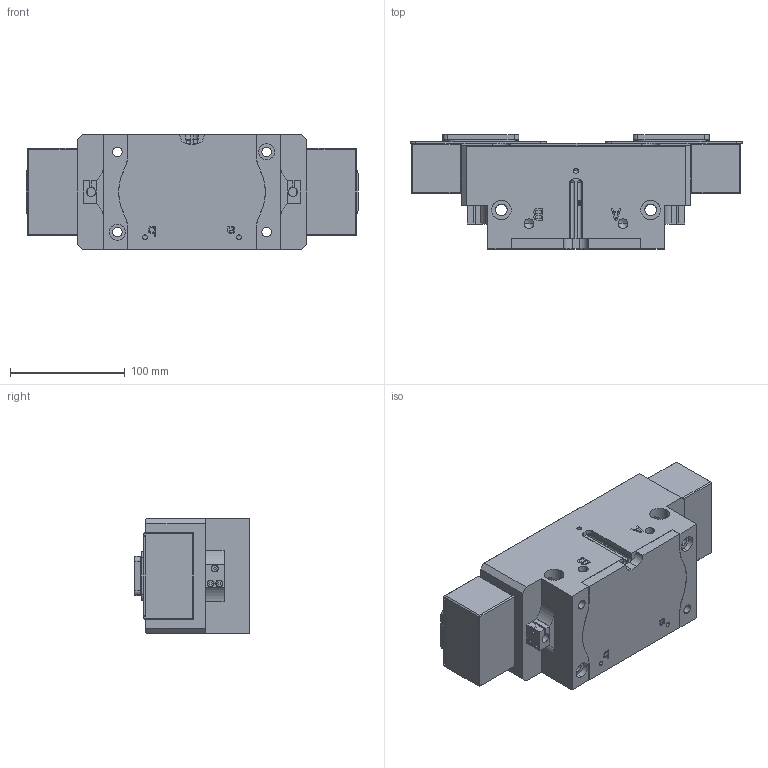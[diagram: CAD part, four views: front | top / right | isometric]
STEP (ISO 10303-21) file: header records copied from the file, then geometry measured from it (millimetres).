
FILE_DESCRIPTION (( 'STEP AP214' ), '1' );
FILE_NAME ('FPT 200A-1-SD.STEP', '2021-09-18T07:48:32', ( 'DEEP' ), ( 'Microsoft' ), 'SwSTEP 2.0', 'SolidWorks 2016', '' );
FILE_SCHEMA (( 'AUTOMOTIVE_DESIGN' ));
Length unit declared in the file: millimetre
Products named in the file (25): FPT 200A-1-004; FPT 200A-1-006; FPT 200A-1-001; FPT 200A-1-002; FPT 200A-1-003; FPT 200A-1-SD; FPT200A-11-sd; FPT 200A-1-SD-001; FPT 200A-1-SD-003; FPT 200A-1-SD-002; FPT 200A-1-SD-004
Assembly tree (15 placements, depth 3):
  FPT 200A-1-004
  FPT 200A-1-004
  FPT 200A-1-006
  FPT 200A-1-001
  FPT 200A-1-001
Bounding box: 289.4 x 99.4 x 100 mm (x, y, z)
Volume: 1859909 mm3; surface area: 290464.7 mm2
Topology: 14 solids, 14 shells, 782 faces, 2042 edges, 1309 vertices
Faces by surface type: plane 465, cylinder 235, cone 76, bspline 6
Entity records: 22622 total; most frequent: CARTESIAN_POINT 4297, DIRECTION 3325, ORIENTED_EDGE 3290, EDGE_CURVE 1645, VECTOR 1191, LINE 1191, VERTEX_POINT 1077, AXIS2_PLACEMENT_3D 1067
